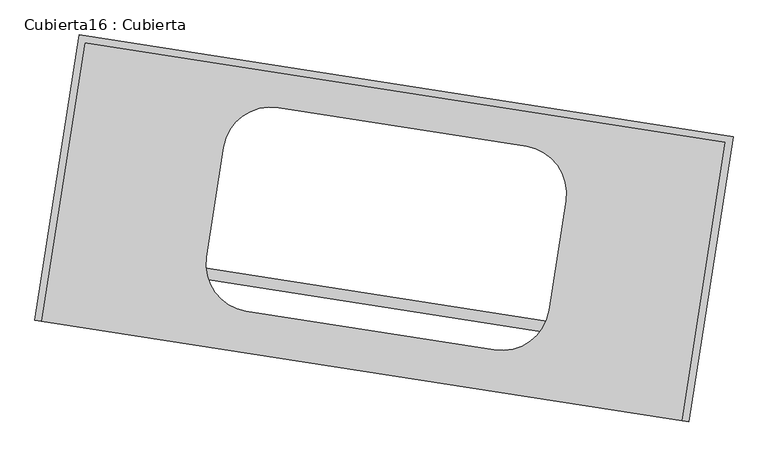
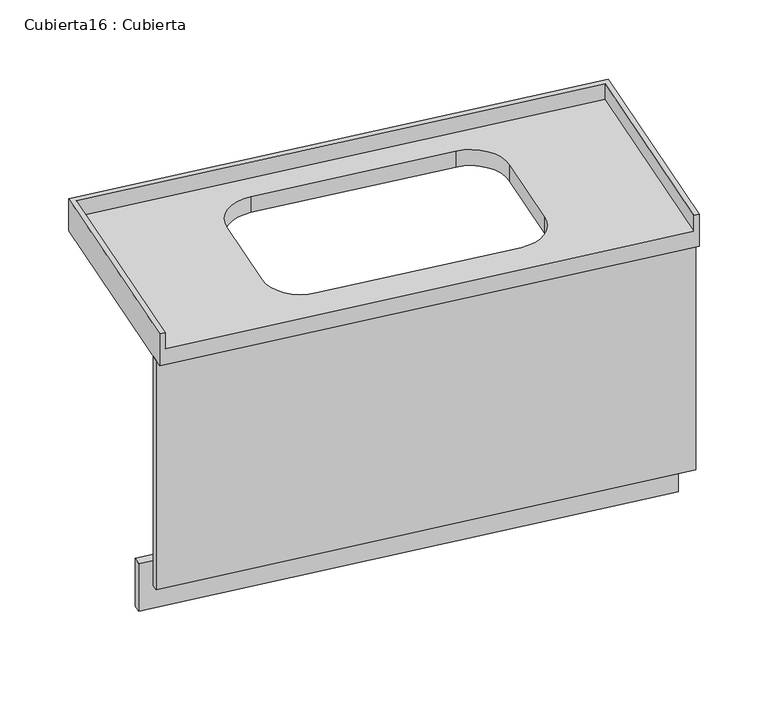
"""IFC4 building model written with IfcOpenShell, lengths in millimetres: furniture geometry, Cubierta16 : Cubierta."""

from ifc_helpers import new_model, si_unit, frame, origin, place, context, project, spatial, polyline, circle_curve, outline, extrude, source, transform, mapped, element, save
from ifc_brep_helpers import plane_surface, revolved_surface, advanced_brep


def cubierta16_cubierta_20eb9fe1(model_context):
    return source(origin(), model_context, "Body", "SolidModel", [
        extrude(outline(polyline([(-44296.2782533, -71757.6545898), (-45768.5015172, -71528.1798789), (-45764.6512704, -71503.4781462), (-44292.4280064, -71732.9528571), (-44296.2782533, -71757.6545898)])), frame((0.0, 0.0, 6400.0), z_axis=(0.0, 0.0, 1.0), x_axis=(1.0, 0.0, 0.0)), (0.0, 0.0, 1.0), 150.0),
        extrude(outline(polyline([(-44315.5294875, -71881.1632534), (-45787.7527514, -71651.6885425), (-45784.6725539, -71631.9271563), (-44312.44929, -71861.4018672), (-44315.5294875, -71881.1632534)])), frame((0.0, 0.0, 6550.0), z_axis=(0.0, 0.0, 1.0), x_axis=(1.0, 0.0, 0.0)), (0.0, 0.0, 1.0), 720.0),
        advanced_brep(
        [(-45776.7819586, -71678.7004233, 7320.0), (-44334.2007739, -71903.554838, 7320.0), (-44236.404504, -71276.130827, 7320.0), (-45678.9856888, -71051.2764123, 7320.0), (-45404.6020427, -71534.2969722, 7320.0), (-45366.0995742, -71287.279645, 7320.0), (-45243.8971017, -71198.0352854, 7320.0), (-44685.6379423, -71285.0508641, 7320.0), (-44596.3935828, -71407.2533366, 7320.0), (-44634.8960512, -71654.2706638, 7320.0), (-44757.0985237, -71743.5150234, 7320.0), (-45315.3576831, -71656.4994447, 7320.0), (-44219.2733163, -71263.6199354, 7270.0), (-44319.3797344, -71905.8649861, 7270.0), (-45791.6029983, -71676.3902752, 7270.0), (-45691.4965803, -71034.1452245, 7270.0), (-45404.6020427, -71534.2969722, 7270.0), (-45315.3576831, -71656.4994447, 7270.0), (-44757.0985237, -71743.5150234, 7270.0), (-44634.8960512, -71654.2706638, 7270.0), (-44596.3935828, -71407.2533366, 7270.0), (-44685.6379423, -71285.0508641, 7270.0), (-45243.8971017, -71198.0352854, 7270.0), (-45366.0995742, -71287.279645, 7270.0), (-44319.3797342, -71905.8649861, 7370.0), (-44334.2007739, -71903.554838, 7370.0), (-45776.7819586, -71678.7004233, 7370.0), (-45791.6029983, -71676.3902752, 7370.0), (-44236.404504, -71276.130827, 7370.0), (-45678.9856888, -71051.2764123, 7370.0), (-45691.4965803, -71034.1452245, 7370.0), (-44219.2733163, -71263.6199355, 7370.0)],
        [
            (0, 1),
            (1, 2),
            (2, 3),
            (3, 0),
            (4, 5),
            (5, 6, circle_curve(frame((-45260.3761582, -71303.7587015, 7320.0), z_axis=(0.0, 0.0, -1.0), x_axis=(0.9880693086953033, -0.1540098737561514, 0.0)), 107.0)),
            (6, 7),
            (7, 8, circle_curve(frame((-44702.1169988, -71390.7742801, 7320.0), z_axis=(0.0, 0.0, -1.0), x_axis=(0.9880693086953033, -0.1540098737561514, 0.0)), 107.0)),
            (8, 9),
            (9, 10, circle_curve(frame((-44740.6194672, -71637.7916073, 7320.0), z_axis=(0.0, 0.0, -1.0), x_axis=(0.9880693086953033, -0.1540098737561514, 0.0)), 107.0)),
            (10, 11),
            (11, 4, circle_curve(frame((-45298.8786266, -71550.7760286, 7320.0), z_axis=(0.0, 0.0, -1.0), x_axis=(0.9880693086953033, -0.1540098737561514, 0.0)), 107.0)),
            (12, 13),
            (13, 14),
            (14, 15),
            (15, 12),
            (16, 17, circle_curve(frame((-45298.8786266, -71550.7760286, 7270.0), z_axis=(0.0, 0.0, 1.0), x_axis=(0.9880693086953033, -0.1540098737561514, 0.0)), 107.0)),
            (17, 18),
            (18, 19, circle_curve(frame((-44740.6194672, -71637.7916073, 7270.0), z_axis=(0.0, 0.0, 1.0), x_axis=(0.9880693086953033, -0.1540098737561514, 0.0)), 107.0)),
            (19, 20),
            (20, 21, circle_curve(frame((-44702.1169988, -71390.7742801, 7270.0), z_axis=(0.0, 0.0, 1.0), x_axis=(0.9880693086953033, -0.1540098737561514, 0.0)), 107.0)),
            (21, 22),
            (22, 23, circle_curve(frame((-45260.3761582, -71303.7587015, 7270.0), z_axis=(0.0, 0.0, 1.0), x_axis=(0.9880693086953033, -0.1540098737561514, 0.0)), 107.0)),
            (23, 16),
            (24, 25),
            (25, 1),
            (0, 26),
            (26, 27),
            (27, 14),
            (13, 24),
            (2, 28),
            (28, 29),
            (29, 3),
            (15, 30),
            (30, 31),
            (31, 12),
            (4, 16),
            (23, 5),
            (22, 6),
            (21, 7),
            (20, 8),
            (19, 9),
            (18, 10),
            (17, 11),
            (31, 24),
            (25, 28),
            (30, 27),
            (26, 29),
        ],
        [
            plane_surface(frame((-45212.4380491, -71108.8158404, 7320.0), z_axis=(0.0, 0.0, 1.0000000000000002), x_axis=(-0.9880693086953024, 0.15400987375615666, 0.0))),
            plane_surface(frame((-45212.4380491, -71108.8158404, 7270.0), z_axis=(0.0, 0.0, -1.0000000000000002), x_axis=(0.9880693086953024, -0.15400987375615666, 0.0))),
            plane_surface(frame((-44319.3797342, -71905.8649861, 6420.0), z_axis=(-0.15400987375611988, -0.9880693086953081, 0.0), x_axis=(0.0, 0.0, 1.0))),
            plane_surface(frame((-44236.404504, -71276.130827, 7370.0), z_axis=(-0.15400987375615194, -0.9880693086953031, 0.0), x_axis=(-0.9880693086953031, 0.15400987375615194, 0.0))),
            plane_surface(frame((-44219.2733163, -71263.6199355, 7320.0), z_axis=(0.15400987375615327, 0.988069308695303, 0.0), x_axis=(-0.988069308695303, 0.15400987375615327, 0.0))),
            plane_surface(frame((-45404.6020427, -71534.2969722, 7320.0), z_axis=(0.9880693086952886, -0.1540098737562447, 0.0), x_axis=(0.0, 0.0, -1.0))),
            revolved_surface(polyline([(-45154.6527421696, -71320.23775799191, 7270.0), (-45154.6527421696, -71320.23775799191, 7320.0)]), (-45260.3761582, -71303.7587015, 6420.0), (0.0, 0.0, -1.0000000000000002)),
            plane_surface(frame((-45243.8971017, -71198.0352854, 7320.0), z_axis=(-0.15400987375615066, -0.9880693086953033, 0.0), x_axis=(0.0, 0.0, -1.0))),
            revolved_surface(polyline([(-44596.3935827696, -71407.25333659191, 7270.0), (-44596.3935827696, -71407.25333659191, 7320.0)]), (-44702.1169988, -71390.7742801, 6420.0), (0.0, 0.0, -1.0000000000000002)),
            plane_surface(frame((-44596.3935828, -71407.2533366, 7320.0), z_axis=(-0.9880693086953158, 0.15400987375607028, 0.0), x_axis=(0.0, 0.0, -1.0))),
            revolved_surface(polyline([(-44634.8960511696, -71654.2706637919, 7270.0), (-44634.8960511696, -71654.2706637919, 7320.0)]), (-44740.6194672, -71637.7916073, 6420.0), (0.0, 0.0, -1.0000000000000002)),
            plane_surface(frame((-44757.0985237, -71743.5150234, 7320.0), z_axis=(0.1540098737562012, 0.9880693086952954, 0.0), x_axis=(0.0, 0.0, -1.0))),
            revolved_surface(polyline([(-45193.1552105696, -71567.2550850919, 7270.0), (-45193.1552105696, -71567.2550850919, 7320.0)]), (-45298.8786266, -71550.7760286, 6420.0), (0.0, 0.0, -1.0000000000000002)),
            plane_surface(frame((-44319.3797342, -71905.8649861, 7320.0), z_axis=(0.9880693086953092, -0.1540098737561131, 0.0), x_axis=(0.1540098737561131, 0.9880693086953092, 0.0))),
            plane_surface(frame((-44334.2007739, -71903.554838, 7370.0), z_axis=(-0.9880693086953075, 0.15400987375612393, 0.0), x_axis=(0.15400987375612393, 0.9880693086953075, 0.0))),
            plane_surface(frame((-44319.3797342, -71905.8649861, 7370.0), z_axis=(0.0, 0.0, 1.0), x_axis=(0.1540098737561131, 0.9880693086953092, 0.0))),
            plane_surface(frame((-45691.4965803, -71034.1452245, 7320.0), z_axis=(-0.9880693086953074, 0.15400987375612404, 0.0), x_axis=(-0.15400987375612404, -0.9880693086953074, 0.0))),
            plane_surface(frame((-45678.9856888, -71051.2764123, 7370.0), z_axis=(0.9880693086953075, -0.15400987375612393, 0.0), x_axis=(-0.15400987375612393, -0.9880693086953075, 0.0))),
        ],
        [
            (0, [[1, 2, 3, 4], [5, 6, 7, 8, 9, 10, 11, 12]]),
            (1, [[13, 14, 15, 16], [17, 18, 19, 20, 21, 22, 23, 24]]),
            (2, [[25, 26, -1, 27, 28, 29, -14, 30]]),
            (3, [[31, 32, 33, -3]]),
            (4, [[-16, 34, 35, 36]]),
            (5, [[-5, 37, -24, 38]]),
            (6, [[-6, -38, -23, 39]]),
            (7, [[-7, -39, -22, 40]]),
            (8, [[-8, -40, -21, 41]]),
            (9, [[-9, -41, -20, 42]]),
            (10, [[-10, -42, -19, 43]]),
            (11, [[-11, -43, -18, 44]]),
            (12, [[-12, -44, -17, -37]]),
            (13, [[-30, -13, -36, 45]]),
            (14, [[-26, 46, -31, -2]]),
            (15, [[-25, -45, -35, 47, -28, 48, -32, -46]]),
            (16, [[-34, -15, -29, -47]]),
            (17, [[-33, -48, -27, -4]]),
        ],
    ),
    ])


if __name__ == "__main__":
    model = new_model("IFC4")
    model_context = context("Model", 3, world=origin())
    ifc_project = project(units=[si_unit("LENGTHUNIT", "METRE", prefix="MILLI")], contexts=[model_context])
    site = spatial("IfcSite", under=ifc_project)
    building = spatial("IfcBuilding", under=site)
    placement = place(None, origin())
    cubierta16_cubierta_shape = cubierta16_cubierta_20eb9fe1(model_context)
    element("IfcFurniture", 1, ObjectType="Cubierta16 : Cubierta", at=placement, inside=building, context=model_context, shape_type="MappedRepresentation", body=[
        mapped(cubierta16_cubierta_shape, transform((0.0, 0.0, 0.0), x_axis=(1.0, 0.0, 0.0), y_axis=(0.0, 1.0, 0.0), z_axis=(0.0, 0.0, 1.0))),
    ])
    save(model, "model.ifc")
